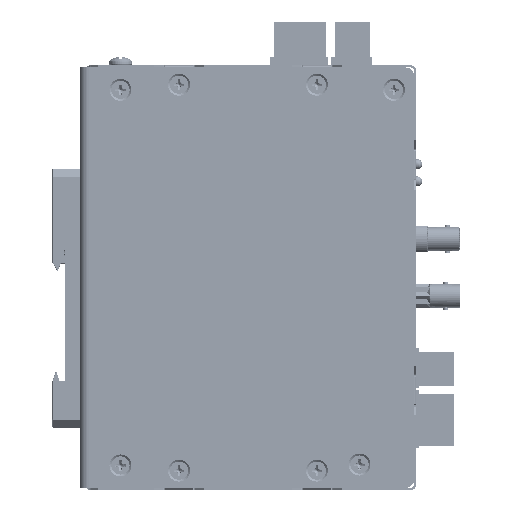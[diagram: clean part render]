
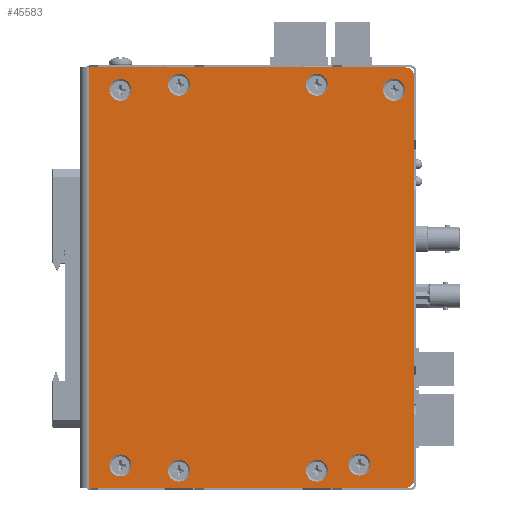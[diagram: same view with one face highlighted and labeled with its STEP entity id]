
A CAD part, left-side view. The second image highlights one B-rep face of the part: STEP entity #45583.
In plain terms, the highlighted planar face has unit normal (-1, 0, 0).
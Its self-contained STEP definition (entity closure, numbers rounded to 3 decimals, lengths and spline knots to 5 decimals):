
#2251=CIRCLE('',#51662,0.00324);
#2252=CIRCLE('',#51663,0.00324);
#2253=CIRCLE('',#51664,0.00324);
#2254=CIRCLE('',#51665,0.00324);
#2255=CIRCLE('',#51666,0.00324);
#2256=CIRCLE('',#51667,0.00324);
#2257=CIRCLE('',#51668,0.00324);
#2258=CIRCLE('',#51669,0.00324);
#2259=CIRCLE('',#51670,0.00254);
#2260=CIRCLE('',#51671,0.00254);
#4295=LINE('',#78220,#8682);
#4299=LINE('',#78229,#8686);
#4305=LINE('',#78243,#8692);
#4307=LINE('',#78265,#8694);
#8682=VECTOR('',#57343,1.);
#8686=VECTOR('',#57349,1.);
#8692=VECTOR('',#57357,1.);
#8694=VECTOR('',#57381,1.);
#15217=ORIENTED_EDGE('',*,*,#26679,.F.);
#15218=ORIENTED_EDGE('',*,*,#26680,.F.);
#15219=ORIENTED_EDGE('',*,*,#26681,.F.);
#15220=ORIENTED_EDGE('',*,*,#26682,.F.);
#15221=ORIENTED_EDGE('',*,*,#26683,.F.);
#15222=ORIENTED_EDGE('',*,*,#26684,.F.);
#15223=ORIENTED_EDGE('',*,*,#26685,.F.);
#15224=ORIENTED_EDGE('',*,*,#26686,.F.);
#15225=ORIENTED_EDGE('',*,*,#26677,.F.);
#15226=ORIENTED_EDGE('',*,*,#26687,.T.);
#15227=ORIENTED_EDGE('',*,*,#26667,.T.);
#15228=ORIENTED_EDGE('',*,*,#26688,.T.);
#15229=ORIENTED_EDGE('',*,*,#26671,.T.);
#15230=ORIENTED_EDGE('',*,*,#26689,.F.);
#26667=EDGE_CURVE('',#32690,#32691,#4295,.T.);
#26671=EDGE_CURVE('',#32694,#32695,#4299,.T.);
#26677=EDGE_CURVE('',#32700,#32701,#4305,.T.);
#26679=EDGE_CURVE('',#32702,#32702,#2251,.T.);
#26680=EDGE_CURVE('',#32703,#32703,#2252,.T.);
#26681=EDGE_CURVE('',#32704,#32704,#2253,.T.);
#26682=EDGE_CURVE('',#32705,#32705,#2254,.T.);
#26683=EDGE_CURVE('',#32706,#32706,#2255,.T.);
#26684=EDGE_CURVE('',#32707,#32707,#2256,.T.);
#26685=EDGE_CURVE('',#32708,#32708,#2257,.T.);
#26686=EDGE_CURVE('',#32709,#32709,#2258,.T.);
#26687=EDGE_CURVE('',#32700,#32690,#2259,.T.);
#26688=EDGE_CURVE('',#32691,#32694,#2260,.T.);
#26689=EDGE_CURVE('',#32701,#32695,#4307,.F.);
#32690=VERTEX_POINT('',#78221);
#32691=VERTEX_POINT('',#78222);
#32694=VERTEX_POINT('',#78230);
#32695=VERTEX_POINT('',#78231);
#32700=VERTEX_POINT('',#78242);
#32701=VERTEX_POINT('',#78244);
#32702=VERTEX_POINT('',#78248);
#32703=VERTEX_POINT('',#78250);
#32704=VERTEX_POINT('',#78252);
#32705=VERTEX_POINT('',#78254);
#32706=VERTEX_POINT('',#78256);
#32707=VERTEX_POINT('',#78258);
#32708=VERTEX_POINT('',#78260);
#32709=VERTEX_POINT('',#78262);
#37134=EDGE_LOOP('',(#15217));
#37135=EDGE_LOOP('',(#15218));
#37136=EDGE_LOOP('',(#15219));
#37137=EDGE_LOOP('',(#15220));
#37138=EDGE_LOOP('',(#15221));
#37139=EDGE_LOOP('',(#15222));
#37140=EDGE_LOOP('',(#15223));
#37141=EDGE_LOOP('',(#15224));
#37142=EDGE_LOOP('',(#15225,#15226,#15227,#15228,#15229,#15230));
#40571=FACE_BOUND('',#37134,.T.);
#40572=FACE_BOUND('',#37135,.T.);
#40573=FACE_BOUND('',#37136,.T.);
#40574=FACE_BOUND('',#37137,.T.);
#40575=FACE_BOUND('',#37138,.T.);
#40576=FACE_BOUND('',#37139,.T.);
#40577=FACE_BOUND('',#37140,.T.);
#40578=FACE_BOUND('',#37141,.T.);
#40579=FACE_BOUND('',#37142,.T.);
#43698=PLANE('',#51661);
#45583=ADVANCED_FACE('',(#40571,#40572,#40573,#40574,#40575,#40576,#40577,
#40578,#40579),#43698,.T.);
#51661=AXIS2_PLACEMENT_3D('',#78246,#57359,#57360);
#51662=AXIS2_PLACEMENT_3D('',#78247,#57361,#57362);
#51663=AXIS2_PLACEMENT_3D('',#78249,#57363,#57364);
#51664=AXIS2_PLACEMENT_3D('',#78251,#57365,#57366);
#51665=AXIS2_PLACEMENT_3D('',#78253,#57367,#57368);
#51666=AXIS2_PLACEMENT_3D('',#78255,#57369,#57370);
#51667=AXIS2_PLACEMENT_3D('',#78257,#57371,#57372);
#51668=AXIS2_PLACEMENT_3D('',#78259,#57373,#57374);
#51669=AXIS2_PLACEMENT_3D('',#78261,#57375,#57376);
#51670=AXIS2_PLACEMENT_3D('',#78263,#57377,#57378);
#51671=AXIS2_PLACEMENT_3D('',#78264,#57379,#57380);
#57343=DIRECTION('',(0.,0.,1.));
#57349=DIRECTION('',(0.,1.,0.));
#57357=DIRECTION('',(0.,1.,0.));
#57359=DIRECTION('',(-1.,0.,0.));
#57360=DIRECTION('',(0.,0.,1.));
#57361=DIRECTION('',(-1.,0.,0.));
#57362=DIRECTION('',(0.,0.,1.));
#57363=DIRECTION('',(-1.,0.,0.));
#57364=DIRECTION('',(0.,0.,1.));
#57365=DIRECTION('',(-1.,0.,0.));
#57366=DIRECTION('',(0.,0.,1.));
#57367=DIRECTION('',(-1.,0.,0.));
#57368=DIRECTION('',(0.,0.,1.));
#57369=DIRECTION('',(-1.,0.,0.));
#57370=DIRECTION('',(0.,0.,1.));
#57371=DIRECTION('',(-1.,0.,0.));
#57372=DIRECTION('',(0.,0.,1.));
#57373=DIRECTION('',(-1.,0.,0.));
#57374=DIRECTION('',(0.,0.,1.));
#57375=DIRECTION('',(-1.,0.,0.));
#57376=DIRECTION('',(0.,0.,1.));
#57377=DIRECTION('',(-1.,0.,0.));
#57378=DIRECTION('',(0.,0.,1.));
#57379=DIRECTION('',(-1.,0.,0.));
#57380=DIRECTION('',(0.,0.,1.));
#57381=DIRECTION('',(0.,0.,-1.));
#78220=CARTESIAN_POINT('',(-0.01524,-0.09703,0.));
#78221=CARTESIAN_POINT('',(-0.01524,-0.09703,-0.05944));
#78222=CARTESIAN_POINT('',(-0.01524,-0.09703,0.05944));
#78229=CARTESIAN_POINT('',(-0.01524,-0.09703,0.06198));
#78230=CARTESIAN_POINT('',(-0.01524,-0.09449,0.06198));
#78231=CARTESIAN_POINT('',(-0.01524,-0.00102,0.06198));
#78242=CARTESIAN_POINT('',(-0.01524,-0.09449,-0.06198));
#78243=CARTESIAN_POINT('',(-0.01524,-0.09703,-0.06198));
#78244=CARTESIAN_POINT('',(-0.01524,-0.00102,-0.06198));
#78246=CARTESIAN_POINT('',(-0.01524,-0.09703,0.));
#78247=CARTESIAN_POINT('',(-0.01524,-0.02769,0.0569));
#78248=CARTESIAN_POINT('',(-0.01524,-0.02769,0.06013));
#78249=CARTESIAN_POINT('',(-0.01524,-0.06833,0.0569));
#78250=CARTESIAN_POINT('',(-0.01524,-0.06833,0.06013));
#78251=CARTESIAN_POINT('',(-0.01524,-0.09106,0.05537));
#78252=CARTESIAN_POINT('',(-0.01524,-0.09106,0.05861));
#78253=CARTESIAN_POINT('',(-0.01524,-0.0809,-0.05512));
#78254=CARTESIAN_POINT('',(-0.01524,-0.0809,-0.05188));
#78255=CARTESIAN_POINT('',(-0.01524,-0.06833,-0.0569));
#78256=CARTESIAN_POINT('',(-0.01524,-0.06833,-0.05366));
#78257=CARTESIAN_POINT('',(-0.01524,-0.02769,-0.0569));
#78258=CARTESIAN_POINT('',(-0.01524,-0.02769,-0.05366));
#78259=CARTESIAN_POINT('',(-0.01524,-0.01041,-0.05537));
#78260=CARTESIAN_POINT('',(-0.01524,-0.01041,-0.05213));
#78261=CARTESIAN_POINT('',(-0.01524,-0.01041,0.05537));
#78262=CARTESIAN_POINT('',(-0.01524,-0.01041,0.05861));
#78263=CARTESIAN_POINT('',(-0.01524,-0.09449,-0.05944));
#78264=CARTESIAN_POINT('',(-0.01524,-0.09449,0.05944));
#78265=CARTESIAN_POINT('',(-0.01524,-0.00102,0.));
